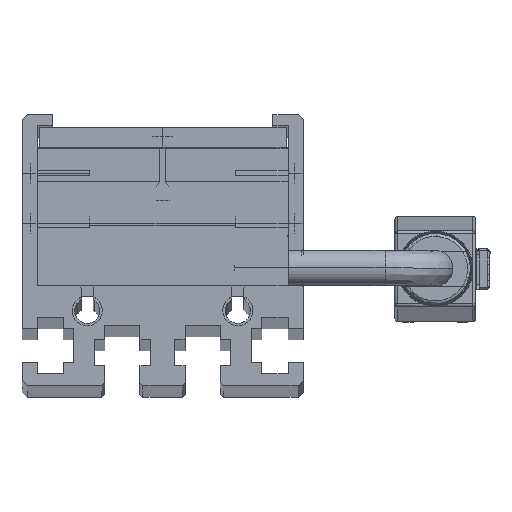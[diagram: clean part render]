
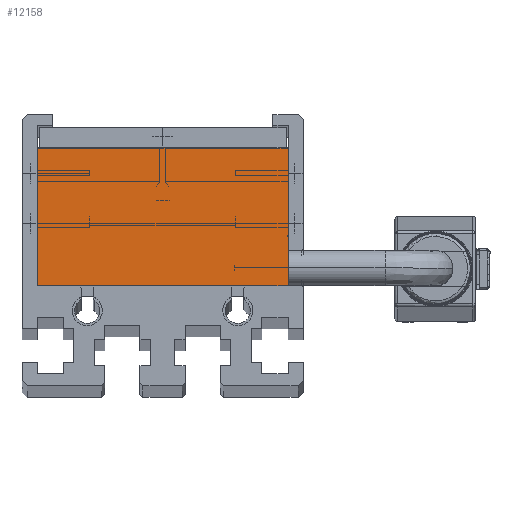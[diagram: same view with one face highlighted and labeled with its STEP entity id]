
A CAD part, top view. The second image highlights one B-rep face of the part: STEP entity #12158.
In plain terms, the highlighted planar face has unit normal (0, 0, 1).
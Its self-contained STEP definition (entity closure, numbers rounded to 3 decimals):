
#1065 = EDGE_CURVE ( 'NONE', #14660, #10875, #12311, .T. ) ;
#1899 = LINE ( 'NONE', #2552, #14954 ) ;
#1922 = VECTOR ( 'NONE', #15038, 1000. ) ;
#2077 = VECTOR ( 'NONE', #12875, 1000. ) ;
#2552 = CARTESIAN_POINT ( 'NONE',  ( -12.5, 13.7, 321. ) ) ;
#2844 = CARTESIAN_POINT ( 'NONE',  ( 12.5, 0., 321. ) ) ;
#4094 = DIRECTION ( 'NONE',  ( -1., 0., 0. ) ) ;
#4210 = PLANE ( 'NONE',  #7280 ) ;
#4362 = DIRECTION ( 'NONE',  ( 0., -1., 0. ) ) ;
#4653 = LINE ( 'NONE', #2844, #15510 ) ;
#5083 = CARTESIAN_POINT ( 'NONE',  ( -12.5, 13.7, 321. ) ) ;
#5112 = CARTESIAN_POINT ( 'NONE',  ( 12.5, 13.7, 321. ) ) ;
#6774 = EDGE_CURVE ( 'NONE', #14098, #17789, #1899, .T. ) ;
#6898 = DIRECTION ( 'NONE',  ( 0., 0., -1. ) ) ;
#6919 = CARTESIAN_POINT ( 'NONE',  ( 12.5, 13.7, 321. ) ) ;
#7280 = AXIS2_PLACEMENT_3D ( 'NONE', #16734, #6898, #4094 ) ;
#8008 = ORIENTED_EDGE ( 'NONE', *, *, #16171, .T. ) ;
#9641 = EDGE_CURVE ( 'NONE', #10875, #17789, #4653, .T. ) ;
#9991 = LINE ( 'NONE', #6919, #1922 ) ;
#10746 = ORIENTED_EDGE ( 'NONE', *, *, #6774, .T. ) ;
#10875 = VERTEX_POINT ( 'NONE', #13680 ) ;
#11523 = ORIENTED_EDGE ( 'NONE', *, *, #1065, .F. ) ;
#11621 = CARTESIAN_POINT ( 'NONE',  ( 12.5, 13.7, 321. ) ) ;
#11971 = FACE_OUTER_BOUND ( 'NONE', #13474, .T. ) ;
#12158 = ADVANCED_FACE ( 'NONE', ( #11971 ), #4210, .F. ) ;
#12311 = LINE ( 'NONE', #11621, #2077 ) ;
#12875 = DIRECTION ( 'NONE',  ( 0., -1., 0. ) ) ;
#13474 = EDGE_LOOP ( 'NONE', ( #10746, #17128, #11523, #8008 ) ) ;
#13680 = CARTESIAN_POINT ( 'NONE',  ( 12.5, 0., 321. ) ) ;
#14098 = VERTEX_POINT ( 'NONE', #5083 ) ;
#14660 = VERTEX_POINT ( 'NONE', #5112 ) ;
#14954 = VECTOR ( 'NONE', #4362, 1000. ) ;
#15038 = DIRECTION ( 'NONE',  ( -1., 0., 0. ) ) ;
#15316 = DIRECTION ( 'NONE',  ( -1., 0., 0. ) ) ;
#15510 = VECTOR ( 'NONE', #15316, 1000. ) ;
#16021 = CARTESIAN_POINT ( 'NONE',  ( -12.5, 0., 321. ) ) ;
#16171 = EDGE_CURVE ( 'NONE', #14660, #14098, #9991, .T. ) ;
#16734 = CARTESIAN_POINT ( 'NONE',  ( 12.5, 13.7, 321. ) ) ;
#17128 = ORIENTED_EDGE ( 'NONE', *, *, #9641, .F. ) ;
#17789 = VERTEX_POINT ( 'NONE', #16021 ) ;
